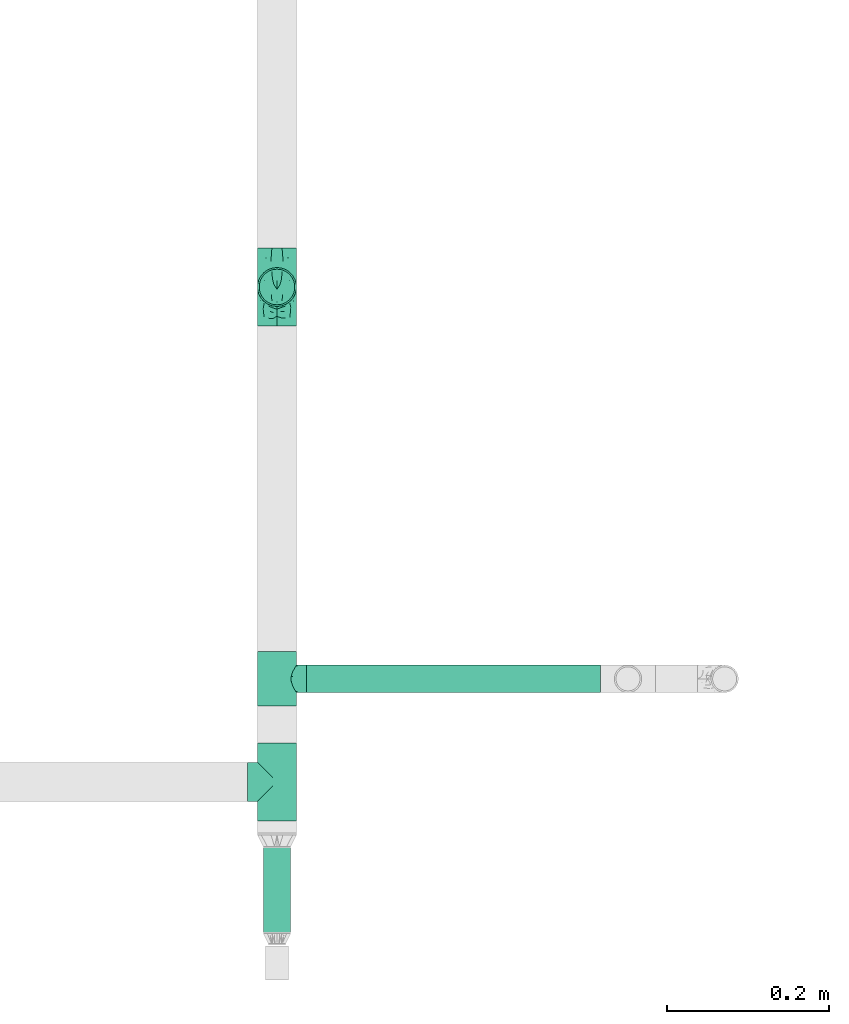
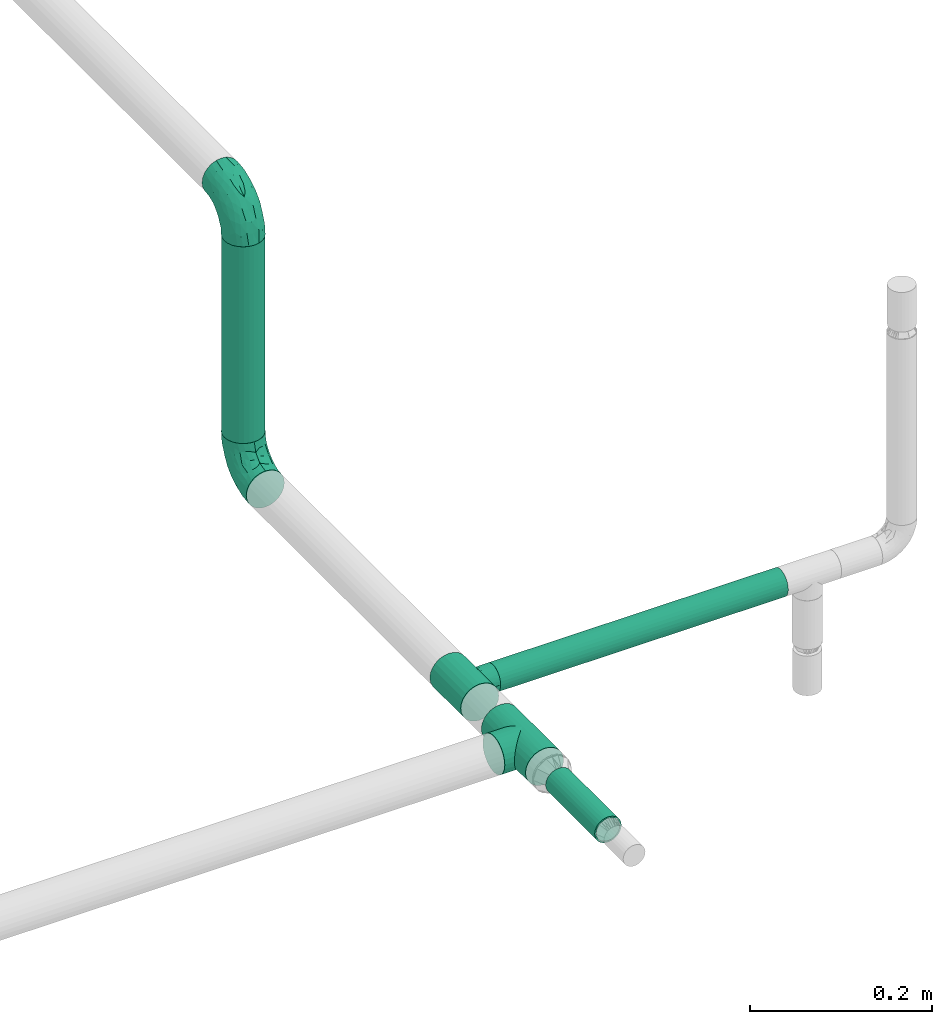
# One storey, part 10 of 51: 4 flow fittings, 3 flow segments.
"""IFC2X3 building model written with IfcOpenShell, lengths in millimetres."""

from ifc_helpers import new_model, entity, si_unit, converted_unit, derived_unit, direction, frame, origin_with_axes, origin_2d_with_axis, place, context, subcontext, project, spatial, hollow_circle, extrude, open_shell, surface_model, source, transform, mapped, type_object, element, save


model = new_model("IFC2X3")

# Units and contexts
model_context = context("Model", 3, precision=0.01, world=frame((0.0, 4.29681676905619e-09, 0.0)), true_north=direction((4.01073788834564e-13, 1.0)))
plan_context = context("Plan", 3, precision=0.01, world=frame((0.0, 4.29681676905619e-09, 0.0)), true_north=direction((4.01073788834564e-13, 1.0)))
body_context = subcontext(model_context, "Body", "Model", "MODEL_VIEW")
ifc_project = project(units=[converted_unit("PLANEANGLEUNIT", "DEGREE", entity("IfcPositiveLengthMeasure", 0.0174532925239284), si_unit("PLANEANGLEUNIT", "RADIAN"), dimensions=[0, 0, 0, 0, 0, 0, 0]), si_unit("AREAUNIT", "SQUARE_METRE"), si_unit("LENGTHUNIT", "METRE", prefix="MILLI"), si_unit("MASSUNIT", "GRAM", prefix="KILO"), si_unit("POWERUNIT", "WATT"), si_unit("PRESSUREUNIT", "PASCAL"), si_unit("FORCEUNIT", "NEWTON", prefix="KILO"), si_unit("ELECTRICVOLTAGEUNIT", "VOLT"), si_unit("ELECTRICCURRENTUNIT", "AMPERE"), si_unit("THERMODYNAMICTEMPERATUREUNIT", "DEGREE_CELSIUS"), si_unit("TIMEUNIT", "SECOND"), si_unit("VOLUMEUNIT", "CUBIC_METRE"), derived_unit("LINEARVELOCITYUNIT", [(si_unit("LENGTHUNIT", "METRE"), 1), (si_unit("TIMEUNIT", "SECOND"), -1)]), derived_unit("VOLUMETRICFLOWRATEUNIT", [(si_unit("VOLUMEUNIT", "CUBIC_METRE"), 1), (si_unit("TIMEUNIT", "SECOND"), -1)]), derived_unit("THERMALTRANSMITTANCEUNIT", [(si_unit("POWERUNIT", "WATT"), 1), (si_unit("THERMODYNAMICTEMPERATUREUNIT", "KELVIN"), -1), (si_unit("AREAUNIT", "SQUARE_METRE"), -1)]), derived_unit("SOUNDPRESSUREUNIT", [(si_unit("PRESSUREUNIT", "PASCAL"), 1)])], contexts=[model_context, plan_context])

# Site, building, storey
site_placement = place(None, frame((0.0, -4.29681676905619e-09, 0.0), z_axis=(0.0, 0.0, 1.0), x_axis=(1.0, 0.0, 0.0)))
site = spatial("IfcSite", under=ifc_project, at=site_placement, Name="ENGM", CompositionType="ELEMENT")
building_placement = place(site_placement, frame((0.0, 4.29681676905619e-09, 0.0), z_axis=(0.0, 0.0, 1.0), x_axis=(1.0, 0.0, 0.0)))
building = spatial("IfcBuilding", under=site, at=building_placement, Name="TH", CompositionType="ELEMENT")
storey_placement = place(building_placement, frame((0.0, 0.0, 210200.0), z_axis=(0.0, 0.0, 1.0), x_axis=(1.0, 0.0, 0.0)))
storey = spatial("IfcBuildingStorey", under=building, at=storey_placement, Name="Nivå F - 0,7 m", CompositionType="ELEMENT", Elevation=210200.0)

# Flow fittings
pipe_fitting_type_1 = type_object("IfcPipeFittingType", Name="magi_pipe_fe_elbow_short_001", PredefinedType="BEND")
shared_shape_1 = source(origin_with_axes(), body_context, "Body", "SurfaceModel", [
    surface_model("IfcShellBasedSurfaceModel", [(-48.4, 6.26342, -23.37541), (-48.4, 0.0, -24.2), (-48.4, 17.11198, -17.11198), (-48.4, 12.1, -20.95781), (-48.4, 23.37541, -6.26342), (-48.4, 20.95781, -12.1), (-48.4, -12.1, -20.95781), (-48.4, -17.11198, -17.11198), (-48.4, -20.95781, -12.1), (-48.4, -6.26342, -23.37541), (-48.4, -23.37541, -6.26342), (-48.4, -24.2, 0.0), (-48.4, -23.37541, 6.26342), (-48.4, 23.37541, 6.26342), (-48.4, 6.26342, 23.37541), (-48.4, 20.95781, 12.1), (-48.4, 17.11198, 17.11198), (-48.4, 12.1, 20.95781), (-48.4, -12.1, 20.95781), (-48.4, -20.95781, 12.1), (-48.4, -17.11198, 17.11198), (-48.4, -6.26342, 23.37541), (-48.4, 0.0, 24.2), (-48.4, 24.2, 0.0), (-17.11198, 48.4, -17.11198), (0.0, 48.4, -24.2), (-6.26342, 48.4, -23.37541), (-12.1, 48.4, -20.95781), (-20.95781, 48.4, -12.1), (-23.37541, 48.4, -6.26342), (12.1, 48.4, -20.95781), (20.95781, 48.4, -12.1), (17.11198, 48.4, -17.11198), (6.26342, 48.4, -23.37541), (23.37541, 48.4, -6.26342), (23.37541, 48.4, 6.26342), (24.2, 48.4, 0.0), (-23.37541, 48.4, 6.26342), (-6.26342, 48.4, 23.37541), (-17.11198, 48.4, 17.11198), (-20.95781, 48.4, 12.1), (-12.1, 48.4, 20.95781), (12.1, 48.4, 20.95781), (17.11198, 48.4, 17.11198), (20.95781, 48.4, 12.1), (0.0, 48.4, 24.2), (6.26342, 48.4, 23.37541), (-24.2, 48.4, 0.0), (-35.50368, -18.80076, 13.58523), (-31.77913, -13.9618, 18.03279), (-34.50859, -21.43683, 0.0), (-21.39243, -15.41147, 12.21413), (-32.16301, -21.12203, 7.54749), (21.12203, 32.16301, 7.54749), (17.07617, 18.95745, 6.20374), (18.67365, 20.61718, 0.0), (-23.65565, 38.62451, 10.51816), (-20.21592, 37.67665, 15.89859), (-35.56981, -9.15108, 21.77256), (-36.96985, -3.20584, 23.78612), (-33.88786, 3.70953, 24.15875), (-8.84062, -10.8048, 0.0), (-18.95745, -17.07617, 6.20374), (-20.61718, -18.67365, 0.0), (-18.69715, -5.87343, 20.10488), (-24.09336, -0.21717, 23.45593), (-2.08262, -4.09091, 10.90396), (-0.40561, 0.49936, 14.45569), (-8.22634, -5.79523, 14.90978), (-37.83027, 20.17367, 15.88169), (-8.41063, 23.79825, 24.15658), (-17.92529, 17.92529, 23.61199), (-14.40991, 10.5752, 24.07534), (-41.86919, 14.6551, 19.71874), (-9.03342, 41.7434, 22.66763), (-3.31671, 36.19978, 24.14056), (-38.63654, 23.65174, 10.51655), (-38.25939, 25.77657, 5.32075), (-30.0475, 30.0475, 9.04616), (-37.30448, 9.49113, 22.86036), (-6.31688, 16.20853, 23.76192), (-12.02449, 4.43954, 22.59792), (-2.47225, 13.07459, 22.23951), (-4.32281, 4.32281, 19.78555), (13.9618, 31.77913, 18.03279), (15.41147, 21.39243, 12.21413), (18.80076, 35.50367, 13.58523), (-25.72741, 16.42033, 22.38358), (-26.59277, 10.36599, 23.76692), (3.20584, 36.96985, 23.78612), (9.15107, 35.56981, 21.77256), (5.87343, 18.69715, 20.10488), (21.43683, 34.50859, 0.0), (-23.74657, 5.93004, 24.18967), (-22.40302, 25.55556, 19.88516), (-33.3245, 16.42738, 20.3789), (-25.47357, 39.04012, 5.19167), (-30.32947, 31.74105, 4.25904), (11.04589, 19.60124, 16.55181), (-27.44219, 36.3, 0.0), (-10.46605, 32.79159, 23.04712), (-13.80953, 25.05111, 23.26361), (-17.54489, 31.27863, 20.33941), (-19.27982, 23.42922, 22.01925), (-14.78447, 40.57947, 19.81913), (-19.60124, -11.04589, 16.55181), (-25.09785, 32.07921, 13.69695), (-25.5093, 27.02629, 17.14196), (-31.08127, 26.00324, 13.49448), (0.21717, 24.09336, 23.45593), (5.51075, 8.40547, 15.32867), (-11.48597, -10.80284, 11.35932), (1.43689, -3.14326, 6.54995), (7.34882, 4.31024, 8.4514), (7.50574, 2.51208, 3.62663), (12.46453, 10.09451, 5.71609), (12.1504, 12.55391, 10.15678), (-36.3, 27.44219, 0.0), (-6.52237, -9.62364, 7.02633), (2.93595, -2.93595, 0.0), (10.8048, 8.84062, 0.0), (-19.60124, -11.04589, -16.55181), (-31.77913, -13.9618, -18.03279), (-18.69715, -5.87343, -20.10488), (-21.39243, -15.41147, -12.21413), (-37.67665, 20.21591, -15.89859), (-40.57947, 14.78447, -19.81913), (-39.04012, 25.47357, -5.19167), (-32.16301, -21.12203, -7.54749), (-30.0475, 30.0475, -9.04616), (-38.62452, 23.65565, -10.51816), (-18.95745, -17.07617, -6.20374), (-23.42922, 19.27982, -22.01926), (-25.05111, 13.80953, -23.26361), (-31.27863, 17.54489, -20.33941), (-14.6551, 41.86919, -19.71874), (-20.17367, 37.83026, -15.88169), (9.15108, 35.56981, -21.77256), (5.87343, 18.69715, -20.10488), (0.21717, 24.09336, -23.45593), (-41.7434, 9.03342, -22.66763), (-35.50368, -18.80076, -13.58523), (-35.56981, -9.15108, -21.77256), (-16.42033, 25.72741, -22.38358), (-9.49113, 37.30447, -22.86036), (-10.36599, 26.59277, -23.76692), (-36.96985, -3.20584, -23.78612), (-23.79826, 8.41063, -24.15658), (-17.92529, 17.92529, -23.61199), (-10.5752, 14.40991, -24.07534), (-36.19978, 3.31671, -24.14056), (-25.77657, 38.25939, -5.32075), (-23.65174, 38.63654, -10.51655), (-32.79159, 10.46605, -23.04712), (-31.74105, 30.32946, -4.25904), (-5.93004, 23.74657, -24.18967), (-25.55556, 22.40302, -19.88516), (-16.42738, 33.3245, -20.3789), (3.20584, 36.96985, -23.78612), (-3.70953, 33.88785, -24.15875), (18.80076, 35.50367, -13.58523), (13.9618, 31.77913, -18.03279), (7.50574, 2.51208, -3.62663), (12.46453, 10.09451, -5.71609), (-16.20853, 6.31688, -23.76192), (-4.43954, 12.02449, -22.59792), (-13.07459, 2.47225, -22.23951), (1.43689, -3.14326, -6.54995), (-6.52237, -9.62364, -7.02632), (-2.08262, -4.09091, -10.90396), (15.41147, 21.39243, -12.21413), (21.12203, 32.16301, -7.54749), (17.07617, 18.95745, -6.20374), (-32.07921, 25.09785, -13.69695), (11.04589, 19.60124, -16.55181), (12.1504, 12.55391, -10.15678), (5.51075, 8.40547, -15.32867), (-27.02629, 25.5093, -17.14196), (-26.00324, 31.08127, -13.49448), (-24.09336, -0.21717, -23.45593), (-4.32281, 4.32281, -19.78555), (-8.22634, -5.79524, -14.90978), (-11.48597, -10.80284, -11.35931), (-0.40561, 0.49936, -14.45569), (7.34882, 4.31024, -8.4514)], [open_shell([[[0, 1, 2]], [[3, 0, 2]], [[4, 5, 2]], [[6, 2, 1]], [[4, 2, 6]], [[7, 8, 6]], [[1, 9, 6]], [[8, 10, 6]], [[6, 10, 4]], [[11, 12, 10]], [[13, 4, 10]], [[14, 13, 10]], [[15, 13, 16]], [[13, 14, 17]], [[16, 13, 17]], [[10, 18, 14]], [[19, 20, 12]], [[20, 10, 12]], [[21, 22, 18]], [[20, 18, 10]], [[18, 22, 14]], [[23, 4, 13]], [[24, 25, 26]], [[24, 26, 27]], [[24, 28, 29]], [[25, 24, 30]], [[30, 24, 29]], [[30, 31, 32]], [[30, 33, 25]], [[30, 34, 31]], [[29, 34, 30]], [[34, 35, 36]], [[34, 29, 37]], [[34, 37, 38]], [[39, 37, 40]], [[41, 38, 37]], [[41, 37, 39]], [[38, 42, 34]], [[35, 43, 44]], [[35, 34, 43]], [[42, 45, 46]], [[34, 42, 43]], [[38, 45, 42]], [[37, 29, 47]], [[20, 48, 49]], [[12, 11, 50]], [[51, 48, 52]], [[53, 54, 55]], [[48, 20, 19]], [[12, 52, 19]], [[40, 56, 57]], [[49, 18, 20]], [[49, 58, 18]], [[22, 59, 60]], [[61, 62, 63]], [[58, 64, 65]], [[66, 67, 68]], [[15, 16, 69]], [[70, 71, 72]], [[17, 73, 16]], [[21, 59, 22]], [[38, 74, 75]], [[22, 60, 14]], [[15, 69, 76]], [[16, 73, 69]], [[23, 13, 77]], [[13, 15, 76]], [[77, 76, 78]], [[14, 79, 17]], [[80, 81, 82]], [[68, 83, 64]], [[84, 43, 42]], [[85, 86, 84]], [[87, 79, 88]], [[18, 58, 21]], [[45, 89, 46]], [[53, 35, 44]], [[45, 38, 75]], [[84, 90, 91]], [[44, 86, 53]], [[92, 35, 53]], [[86, 44, 43]], [[90, 42, 46]], [[53, 55, 92]], [[88, 93, 72]], [[54, 53, 85]], [[87, 94, 95]], [[78, 96, 97]], [[98, 84, 91]], [[99, 96, 47]], [[79, 14, 60]], [[96, 78, 56]], [[62, 52, 63]], [[57, 39, 40]], [[100, 70, 75]], [[101, 102, 103]], [[12, 50, 52]], [[104, 41, 39]], [[74, 38, 41]], [[57, 102, 104]], [[105, 64, 49]], [[90, 84, 42]], [[40, 37, 56]], [[56, 106, 57]], [[102, 57, 107]], [[95, 107, 69]], [[76, 108, 78]], [[100, 101, 70]], [[89, 75, 109]], [[64, 58, 49]], [[63, 52, 50]], [[59, 58, 65]], [[105, 49, 51]], [[64, 83, 81]], [[89, 90, 46]], [[36, 35, 92]], [[109, 82, 91]], [[109, 91, 90]], [[91, 83, 110]], [[111, 68, 105]], [[66, 68, 111]], [[62, 51, 52]], [[66, 112, 113]], [[114, 115, 113]], [[98, 85, 84]], [[52, 48, 19]], [[49, 48, 51]], [[84, 86, 43]], [[53, 86, 85]], [[88, 79, 60]], [[73, 79, 95]], [[96, 56, 37]], [[78, 108, 106]], [[87, 103, 94]], [[100, 74, 104]], [[108, 69, 107]], [[78, 97, 77]], [[88, 72, 71]], [[109, 75, 70]], [[81, 72, 65]], [[70, 72, 80]], [[75, 89, 45]], [[90, 89, 109]], [[58, 59, 21]], [[60, 59, 65]], [[67, 83, 68]], [[110, 113, 116]], [[88, 60, 93]], [[87, 88, 71]], [[103, 87, 71]], [[79, 87, 95]], [[101, 103, 71]], [[94, 103, 102]], [[47, 96, 37]], [[96, 99, 97]], [[99, 117, 97]], [[97, 117, 77]], [[23, 77, 117]], [[13, 76, 77]], [[60, 65, 93]], [[65, 72, 93]], [[70, 101, 71]], [[102, 101, 100]], [[69, 108, 76]], [[106, 108, 107]], [[57, 106, 107]], [[78, 106, 56]], [[57, 104, 39]], [[100, 104, 102]], [[102, 107, 94]], [[95, 94, 107]], [[64, 81, 65]], [[82, 81, 83]], [[91, 82, 83]], [[80, 82, 109]], [[70, 80, 109]], [[81, 80, 72]], [[79, 73, 17]], [[69, 73, 95]], [[104, 74, 41]], [[75, 74, 100]], [[62, 61, 118]], [[111, 62, 118]], [[113, 115, 116]], [[119, 118, 61]], [[111, 105, 51]], [[113, 112, 114]], [[120, 55, 54]], [[68, 64, 105]], [[91, 110, 98]], [[116, 98, 110]], [[62, 111, 51]], [[66, 111, 118]], [[112, 66, 118]], [[67, 113, 110]], [[118, 119, 112]], [[114, 112, 119]], [[119, 120, 114]], [[115, 120, 54]], [[120, 115, 114]], [[116, 54, 85]], [[54, 116, 115]], [[116, 85, 98]], [[113, 67, 66]], [[83, 67, 110]], [[121, 122, 123]], [[122, 121, 124]], [[5, 125, 2]], [[2, 126, 3]], [[117, 127, 23]], [[50, 10, 128]], [[127, 129, 130]], [[128, 131, 63]], [[132, 133, 134]], [[24, 135, 136]], [[137, 138, 139]], [[3, 140, 0]], [[128, 8, 141]], [[142, 6, 9]], [[128, 63, 50]], [[5, 4, 130]], [[8, 7, 141]], [[143, 144, 145]], [[146, 9, 1]], [[147, 148, 149]], [[8, 128, 10]], [[124, 141, 122]], [[150, 1, 0]], [[151, 152, 129]], [[125, 134, 126]], [[153, 147, 150]], [[127, 154, 129]], [[145, 155, 149]], [[47, 29, 151]], [[143, 156, 157]], [[152, 29, 28]], [[25, 158, 159]], [[122, 7, 6]], [[24, 27, 135]], [[144, 27, 26]], [[32, 160, 161]], [[25, 33, 158]], [[120, 162, 163]], [[130, 125, 5]], [[24, 136, 28]], [[0, 140, 150]], [[30, 161, 137]], [[142, 122, 6]], [[25, 159, 26]], [[164, 165, 166]], [[167, 168, 169]], [[31, 160, 32]], [[161, 30, 32]], [[170, 160, 171]], [[131, 128, 124]], [[36, 92, 34]], [[34, 92, 171]], [[172, 171, 55]], [[34, 171, 31]], [[144, 26, 159]], [[130, 173, 125]], [[174, 175, 176]], [[136, 152, 28]], [[30, 137, 33]], [[122, 142, 123]], [[134, 125, 177]], [[157, 177, 136]], [[152, 178, 129]], [[153, 133, 147]], [[146, 150, 179]], [[146, 142, 9]], [[11, 10, 50]], [[179, 166, 123]], [[179, 123, 142]], [[123, 180, 181]], [[138, 137, 161]], [[55, 171, 92]], [[158, 137, 139]], [[174, 161, 170]], [[138, 180, 165]], [[180, 138, 176]], [[124, 121, 182]], [[176, 183, 180]], [[61, 131, 168]], [[169, 168, 182]], [[172, 170, 171]], [[122, 141, 7]], [[128, 141, 124]], [[171, 160, 31]], [[161, 160, 170]], [[145, 144, 159]], [[135, 144, 157]], [[127, 130, 4]], [[129, 178, 173]], [[143, 132, 156]], [[153, 140, 126]], [[178, 136, 177]], [[129, 154, 151]], [[145, 149, 148]], [[179, 150, 147]], [[165, 149, 139]], [[147, 149, 164]], [[150, 146, 1]], [[142, 146, 179]], [[137, 158, 33]], [[159, 158, 139]], [[174, 138, 161]], [[184, 169, 183]], [[145, 159, 155]], [[143, 145, 148]], [[132, 143, 148]], [[144, 143, 157]], [[133, 132, 148]], [[156, 132, 134]], [[23, 127, 4]], [[127, 117, 154]], [[117, 99, 154]], [[154, 99, 151]], [[47, 151, 99]], [[29, 152, 151]], [[159, 139, 155]], [[139, 149, 155]], [[147, 133, 148]], [[134, 133, 153]], [[136, 178, 152]], [[173, 178, 177]], [[125, 173, 177]], [[129, 173, 130]], [[125, 126, 2]], [[153, 126, 134]], [[134, 177, 156]], [[157, 156, 177]], [[138, 165, 139]], [[166, 165, 180]], [[123, 166, 180]], [[164, 166, 179]], [[147, 164, 179]], [[165, 164, 149]], [[144, 135, 27]], [[136, 135, 157]], [[126, 140, 3]], [[150, 140, 153]], [[182, 131, 124]], [[168, 119, 61]], [[119, 167, 162]], [[63, 131, 61]], [[172, 163, 175]], [[172, 55, 120]], [[123, 181, 121]], [[182, 121, 181]], [[175, 174, 170]], [[176, 138, 174]], [[169, 182, 181]], [[131, 182, 168]], [[183, 169, 181]], [[167, 169, 184]], [[162, 167, 184]], [[119, 168, 167]], [[163, 162, 184]], [[120, 119, 162]], [[175, 163, 184]], [[120, 163, 172]], [[176, 175, 184]], [[172, 175, 170]], [[180, 183, 181]], [[184, 183, 176]]])]),
])
for number, where, z_axis, x_axis, name in (
    (1, (908949.82472, 481635.36097, 3060.0), (-1.0, 0.0, 0.0), (0.0, 0.0, 1.0), "magi_pipe_fe_elbow_short_001"),
    (2, (908949.82472, 481635.36097, 2700.0), (-1.0, 0.0, 0.0), (0.0, 0.0, -1.0), "magi_pipe_fe_elbow_short_001"),
):
    element("IfcFlowFitting", number, at=place(storey_placement, frame(where, z_axis=z_axis, x_axis=x_axis)), inside=storey, type_object=pipe_fitting_type_1, Name=name, context=body_context, shape_type="MappedRepresentation", body=[
        mapped(shared_shape_1, transform((0.0, 0.0, 0.0), scale=1.0)),
    ])
pipe_fitting_type_2 = type_object("IfcPipeFittingType", Name="magi_pipe_fe_tee_centric_90_NOR", PredefinedType="JUNCTION")
shared_shape_2 = source(origin_with_axes(), body_context, "Body", "SurfaceModel", [
    surface_model("IfcShellBasedSurfaceModel", [(-33.8, 0.0, -24.2), (-33.8, -6.26342, -23.37541), (-33.8, 6.26342, -23.37541), (-33.8, 12.1, -20.95781), (-33.8, 17.11198, -17.11198), (-33.8, 20.95781, -12.1), (-33.8, -23.37541, -6.26342), (-33.8, 23.37541, -6.26342), (-33.8, -17.11198, -17.11198), (-33.8, -20.95781, -12.1), (-33.8, -12.1, -20.95781), (-33.8, -24.2, 0.0), (-33.8, -23.37541, 6.26342), (-33.8, 20.95781, 12.1), (-33.8, 23.37541, 6.26342), (-33.8, 24.2, 0.0), (-33.8, 12.1, 20.95781), (-33.8, 17.11198, 17.11198), (-33.8, -17.11198, 17.11198), (-33.8, 6.26342, 23.37541), (-33.8, -20.95781, 12.1), (-33.8, -12.1, 20.95781), (-33.8, -6.26342, 23.37541), (-33.8, 0.0, 24.2), (33.8, 6.26342, -23.37541), (33.8, -6.26342, -23.37541), (33.8, 0.0, -24.2), (33.8, 17.11198, -17.11198), (33.8, 12.1, -20.95781), (33.8, -23.37541, -6.26342), (33.8, 20.95781, -12.1), (33.8, 23.37541, -6.26342), (33.8, -17.11198, -17.11198), (33.8, -12.1, -20.95781), (33.8, -20.95781, -12.1), (33.8, -24.2, 0.0), (33.8, 24.2, 0.0), (33.8, 23.37541, 6.26342), (33.8, 20.95781, 12.1), (33.8, -23.37541, 6.26342), (33.8, -17.11198, 17.11198), (33.8, 12.1, 20.95781), (33.8, 17.11198, 17.11198), (33.8, 6.26342, 23.37541), (33.8, -20.95781, 12.1), (33.8, -12.1, 20.95781), (33.8, 0.0, 24.2), (33.8, -6.26342, 23.37541), (15.81824, -23.45734, 5.94922), (16.9, -24.2, 0.0), (12.87025, -21.57947, 10.95293), (33.8, -19.0349, 14.60599), (8.52813, -19.30697, 14.59044), (3.03527, -17.5853, 16.6252), (-3.04044, -17.58619, 16.62425), (-8.52961, -19.30762, 14.58958), (-33.8, -19.0349, 14.60599), (-16.9, -24.2, 0.0), (-15.81885, -23.45775, 5.9476), (-12.87368, -21.58151, 10.9489), (3.03527, -17.5853, -16.6252), (33.8, -19.0349, -14.60599), (8.52813, -19.30697, -14.59044), (-8.52961, -19.30762, -14.58958), (-33.8, -19.0349, -14.60599), (12.87025, -21.57947, -10.95293), (-3.04044, -17.58619, -16.62425), (15.81824, -23.45734, -5.94922), (-12.87368, -21.58151, -10.9489), (-15.81885, -23.45775, -5.9476), (4.37404, -36.3, -16.32415), (-16.9, -36.3, 0.0), (0.0, -36.3, -16.9), (14.63583, -36.3, -8.45), (8.45, -36.3, -14.63583), (16.32415, -36.3, -4.37404), (11.9501, -36.3, -11.9501), (-11.9501, -36.3, -11.9501), (-8.45, -36.3, -14.63583), (-4.37404, -36.3, -16.32415), (-14.63583, -36.3, -8.45), (-16.32415, -36.3, -4.37404), (16.9, -36.3, 0.0), (8.45, -36.3, 14.63583), (16.32415, -36.3, 4.37404), (14.63583, -36.3, 8.45), (-8.45, -36.3, 14.63583), (11.9501, -36.3, 11.9501), (4.37404, -36.3, 16.32415), (-16.32415, -36.3, 4.37404), (-11.9501, -36.3, 11.9501), (-14.63583, -36.3, 8.45), (0.0, -36.3, 16.9), (-4.37404, -36.3, 16.32415), (-16.35943, -23.82888, 2.9738), (16.35912, -23.82867, 2.97461), (-0.00259, -17.58575, 16.62472), (16.35912, -23.82867, -2.97461), (-0.00259, -17.58575, -16.62472), (-16.35943, -23.82888, -2.9738)], [open_shell([[[0, 1, 2]], [[3, 2, 4]], [[5, 2, 6]], [[4, 2, 5]], [[7, 5, 6]], [[8, 9, 10]], [[1, 10, 9]], [[1, 9, 2]], [[9, 6, 2]], [[6, 11, 7]], [[11, 12, 7]], [[13, 14, 15]], [[13, 15, 12]], [[16, 17, 18]], [[12, 17, 13]], [[19, 16, 18]], [[20, 18, 12]], [[18, 17, 12]], [[21, 22, 18]], [[23, 18, 22]], [[18, 23, 19]], [[7, 12, 15]], [[24, 25, 26]], [[27, 24, 28]], [[29, 24, 30]], [[30, 24, 27]], [[29, 30, 31]], [[25, 32, 33]], [[32, 25, 34]], [[24, 34, 25]], [[24, 29, 34]], [[31, 35, 29]], [[31, 36, 35]], [[36, 37, 38]], [[39, 36, 38]], [[40, 38, 41]], [[41, 38, 42]], [[40, 41, 43]], [[39, 40, 44]], [[39, 38, 40]], [[45, 46, 47]], [[46, 45, 40]], [[43, 46, 40]], [[36, 39, 35]], [[35, 39, 48]], [[48, 49, 35]], [[39, 50, 48]], [[51, 40, 52]], [[52, 50, 44]], [[53, 52, 40]], [[54, 53, 21]], [[44, 50, 39]], [[55, 18, 56]], [[57, 58, 11]], [[12, 11, 58]], [[58, 59, 12]], [[55, 54, 18]], [[55, 20, 59]], [[20, 55, 56]], [[59, 20, 12]], [[18, 54, 21]], [[52, 44, 51]], [[53, 40, 45]], [[23, 47, 46]], [[22, 45, 47]], [[19, 46, 43]], [[38, 37, 14]], [[17, 41, 42]], [[13, 42, 38]], [[43, 41, 16]], [[15, 37, 36]], [[21, 45, 22]], [[22, 47, 23]], [[19, 23, 46]], [[43, 16, 19]], [[16, 41, 17]], [[13, 17, 42]], [[14, 13, 38]], [[37, 15, 14]], [[45, 21, 53]], [[5, 31, 30]], [[7, 36, 31]], [[4, 30, 27]], [[26, 25, 1]], [[2, 28, 24]], [[0, 24, 26]], [[27, 28, 3]], [[10, 25, 33]], [[15, 36, 7]], [[7, 31, 5]], [[4, 5, 30]], [[27, 3, 4]], [[3, 28, 2]], [[0, 2, 24]], [[1, 0, 26]], [[25, 10, 1]], [[33, 60, 10]], [[61, 34, 62]], [[63, 9, 64]], [[62, 60, 32]], [[34, 65, 62]], [[66, 10, 60]], [[29, 35, 67]], [[67, 65, 29]], [[49, 67, 35]], [[29, 65, 34]], [[66, 63, 8]], [[62, 32, 61]], [[64, 8, 63]], [[63, 68, 9]], [[8, 10, 66]], [[68, 69, 6]], [[69, 11, 6]], [[11, 69, 57]], [[68, 6, 9]], [[60, 33, 32]], [[70, 71, 72]], [[73, 70, 74]], [[73, 75, 70]], [[73, 74, 76]], [[71, 70, 75]], [[72, 77, 78]], [[78, 79, 72]], [[80, 71, 81]], [[77, 72, 80]], [[71, 80, 72]], [[75, 82, 71]], [[83, 82, 84]], [[83, 84, 85]], [[86, 71, 83]], [[83, 85, 87]], [[86, 83, 88]], [[89, 90, 91]], [[90, 89, 86]], [[86, 92, 93]], [[89, 71, 86]], [[88, 92, 86]], [[83, 71, 82]], [[89, 94, 71]], [[59, 91, 90]], [[89, 91, 58]], [[90, 86, 55]], [[89, 58, 94]], [[94, 57, 71]], [[58, 91, 59]], [[95, 48, 84]], [[55, 93, 54]], [[55, 59, 90]], [[92, 53, 96]], [[55, 86, 93]], [[53, 92, 88]], [[83, 52, 88]], [[87, 85, 50]], [[87, 52, 83]], [[48, 85, 84]], [[87, 50, 52]], [[52, 53, 88]], [[82, 95, 84]], [[48, 50, 85]], [[95, 82, 49]], [[92, 54, 93]], [[96, 54, 92]], [[75, 97, 82]], [[65, 73, 76]], [[75, 73, 67]], [[76, 74, 62]], [[97, 49, 82]], [[67, 73, 65]], [[62, 70, 60]], [[62, 65, 76]], [[72, 66, 98]], [[62, 74, 70]], [[99, 71, 57]], [[99, 69, 81]], [[75, 67, 97]], [[79, 66, 72]], [[69, 80, 81]], [[77, 80, 68]], [[72, 60, 70]], [[79, 63, 66]], [[63, 79, 78]], [[78, 77, 63]], [[63, 77, 68]], [[68, 80, 69]], [[71, 99, 81]], [[98, 60, 72]]])]),
])
flow_fitting_1_placement = place(storey_placement, frame((908949.82472, 481150.50372, 2700.0), z_axis=(0.0, 0.0, 1.0), x_axis=(0.0, 1.0, 0.0)))
element("IfcFlowFitting", 3, at=flow_fitting_1_placement, inside=storey, type_object=pipe_fitting_type_2, Name="magi_pipe_fe_tee_centric_90_NOR", context=body_context, shape_type="MappedRepresentation", body=[
    mapped(shared_shape_2, transform((0.0, 0.0, 0.0), scale=1.0)),
])
shared_shape_3 = source(origin_with_axes(), body_context, "Body", "SurfaceModel", [
    surface_model("IfcShellBasedSurfaceModel", [(-48.4, 12.1, -20.95781), (-48.4, 6.26342, -23.37541), (-48.4, 17.11198, -17.11198), (-48.4, -20.95781, 12.1), (-48.4, -17.11198, 17.11198), (-48.4, -23.37541, 6.26342), (-48.4, 0.0, -24.2), (-48.4, -6.26342, -23.37541), (-48.4, 20.95781, -12.1), (-48.4, -23.37541, -6.26342), (-48.4, 23.37541, -6.26342), (-48.4, -12.1, -20.95781), (-48.4, -17.11198, -17.11198), (-48.4, -20.95781, -12.1), (-48.4, -24.2, 0.0), (-48.4, 20.95781, 12.1), (-48.4, 23.37541, 6.26342), (-48.4, 24.2, 0.0), (-48.4, 12.1, 20.95781), (-48.4, 17.11198, 17.11198), (-48.4, 6.26342, 23.37541), (-48.4, -12.1, 20.95781), (-48.4, -6.26342, 23.37541), (-48.4, 0.0, 24.2), (48.4, 6.26342, -23.37541), (48.4, -6.26342, -23.37541), (48.4, 0.0, -24.2), (48.4, 17.11198, -17.11198), (48.4, 12.1, -20.95781), (48.4, -23.37541, -6.26342), (48.4, 20.95781, -12.1), (48.4, 23.37541, -6.26342), (48.4, -17.11198, -17.11198), (48.4, -12.1, -20.95781), (48.4, -20.95781, -12.1), (48.4, -24.2, 0.0), (48.4, 24.2, 0.0), (48.4, 23.37541, 6.26342), (48.4, 20.95781, 12.1), (48.4, -23.37541, 6.26342), (48.4, -17.11198, 17.11198), (48.4, 12.1, 20.95781), (48.4, 17.11198, 17.11198), (48.4, 6.26342, 23.37541), (48.4, -20.95781, 12.1), (48.4, -12.1, 20.95781), (48.4, 0.0, 24.2), (48.4, -6.26342, 23.37541), (23.32218, -23.32218, 6.45878), (24.2, -24.2, 0.0), (20.94524, -20.94524, 12.12176), (13.56365, -13.56365, 20.04164), (17.56065, -17.56065, 16.65123), (-24.2, -24.2, 0.0), (-23.32218, -23.32218, 6.45878), (-20.94524, -20.94524, 12.12176), (-17.56065, -17.56065, 16.65123), (-13.56365, -13.56365, 20.04164), (-9.20594, -9.20594, 22.38059), (9.20594, -9.20594, 22.38059), (4.647, -4.647, 23.74964), (0.0, 0.0, 24.2), (-4.647, -4.647, 23.74964), (4.647, -4.647, -23.74964), (0.0, 0.0, -24.2), (-4.647, -4.647, -23.74964), (-9.20594, -9.20594, -22.38059), (9.20594, -9.20594, -22.38059), (13.56365, -13.56365, -20.04164), (17.56065, -17.56065, -16.65123), (20.94524, -20.94524, -12.12176), (23.32218, -23.32218, -6.45878), (-13.56365, -13.56365, -20.04164), (-17.56065, -17.56065, -16.65123), (-23.32218, -23.32218, -6.45878), (-20.94524, -20.94524, -12.12176), (0.0, -36.3, -24.2), (6.26342, -36.3, -23.37541), (12.1, -36.3, -20.95781), (12.1, -36.3, 20.95781), (17.11198, -36.3, -17.11198), (20.95781, -36.3, -12.1), (23.37541, -36.3, -6.26342), (-12.1, -36.3, -20.95781), (-20.95781, -36.3, -12.1), (-17.11198, -36.3, -17.11198), (-6.26342, -36.3, -23.37541), (-23.37541, -36.3, -6.26342), (-24.2, -36.3, 0.0), (24.2, -36.3, 0.0), (23.37541, -36.3, 6.26342), (20.95781, -36.3, 12.1), (-23.37541, -36.3, 6.26342), (17.11198, -36.3, 17.11198), (6.26342, -36.3, 23.37541), (-17.11198, -36.3, 17.11198), (-20.95781, -36.3, 12.1), (-12.1, -36.3, 20.95781), (0.0, -36.3, 24.2), (-6.26342, -36.3, 23.37541)], [open_shell([[[0, 1, 2]], [[3, 4, 5]], [[6, 7, 1]], [[8, 1, 9]], [[2, 1, 8]], [[10, 8, 9]], [[11, 12, 7]], [[13, 7, 12]], [[7, 13, 1]], [[13, 9, 1]], [[9, 14, 10]], [[14, 5, 10]], [[15, 16, 17]], [[15, 17, 5]], [[18, 19, 4]], [[5, 19, 15]], [[20, 18, 4]], [[4, 19, 5]], [[21, 22, 4]], [[23, 4, 22]], [[4, 23, 20]], [[10, 5, 17]], [[24, 25, 26]], [[27, 24, 28]], [[29, 24, 30]], [[30, 24, 27]], [[29, 30, 31]], [[25, 32, 33]], [[32, 25, 34]], [[24, 34, 25]], [[24, 29, 34]], [[31, 35, 29]], [[31, 36, 35]], [[36, 37, 38]], [[39, 36, 38]], [[40, 38, 41]], [[41, 38, 42]], [[40, 41, 43]], [[39, 40, 44]], [[39, 38, 40]], [[45, 46, 47]], [[46, 45, 40]], [[43, 46, 40]], [[36, 39, 35]], [[39, 44, 48]], [[35, 39, 49]], [[49, 39, 48]], [[44, 50, 48]], [[40, 45, 51]], [[50, 44, 52]], [[51, 52, 40]], [[52, 44, 40]], [[53, 54, 5]], [[53, 5, 14]], [[5, 54, 3]], [[54, 55, 3]], [[56, 57, 4]], [[4, 3, 56]], [[4, 57, 21]], [[56, 3, 55]], [[21, 57, 58]], [[51, 45, 59]], [[60, 46, 61]], [[59, 47, 60]], [[47, 59, 45]], [[60, 47, 46]], [[61, 46, 43]], [[38, 37, 16]], [[19, 41, 42]], [[15, 42, 38]], [[43, 41, 18]], [[17, 37, 36]], [[62, 61, 23]], [[62, 22, 58]], [[22, 62, 23]], [[58, 22, 21]], [[61, 20, 23]], [[43, 20, 61]], [[18, 20, 43]], [[18, 41, 19]], [[15, 19, 42]], [[16, 15, 38]], [[37, 17, 16]], [[27, 2, 30]], [[31, 10, 36]], [[31, 30, 8]], [[0, 27, 28]], [[26, 25, 63]], [[26, 64, 24]], [[64, 26, 63]], [[28, 24, 1]], [[64, 1, 24]], [[10, 31, 8]], [[30, 2, 8]], [[2, 27, 0]], [[36, 10, 17]], [[65, 66, 7]], [[6, 1, 64]], [[6, 65, 7]], [[66, 11, 7]], [[1, 0, 28]], [[6, 64, 65]], [[63, 25, 67]], [[33, 32, 68]], [[69, 68, 32]], [[34, 70, 69]], [[69, 32, 34]], [[33, 68, 67]], [[29, 35, 49]], [[29, 71, 34]], [[71, 29, 49]], [[34, 71, 70]], [[72, 11, 66]], [[72, 12, 11]], [[12, 72, 73]], [[12, 73, 13]], [[74, 53, 9]], [[75, 74, 13]], [[74, 9, 13]], [[9, 53, 14]], [[75, 13, 73]], [[33, 67, 25]], [[76, 77, 78]], [[79, 76, 78]], [[80, 81, 82]], [[80, 82, 78]], [[79, 83, 76]], [[83, 84, 85]], [[83, 86, 76]], [[83, 87, 84]], [[87, 83, 88]], [[83, 79, 88]], [[89, 78, 82]], [[89, 90, 91]], [[89, 91, 79]], [[79, 92, 88]], [[79, 91, 93]], [[92, 79, 94]], [[92, 95, 96]], [[92, 94, 95]], [[97, 98, 99]], [[98, 97, 95]], [[94, 98, 95]], [[79, 78, 89]], [[88, 92, 53]], [[54, 53, 92]], [[95, 97, 57]], [[54, 92, 96]], [[95, 56, 96]], [[58, 97, 99]], [[55, 54, 96]], [[56, 55, 96]], [[58, 57, 97]], [[98, 61, 62]], [[58, 99, 62]], [[56, 95, 57]], [[62, 99, 98]], [[60, 98, 94]], [[79, 59, 94]], [[91, 90, 48]], [[52, 93, 91]], [[51, 79, 93]], [[49, 90, 89]], [[59, 60, 94]], [[51, 59, 79]], [[49, 48, 90]], [[50, 52, 91]], [[48, 50, 91]], [[51, 93, 52]], [[98, 60, 61]], [[89, 82, 49]], [[71, 49, 82]], [[69, 81, 80]], [[80, 78, 68]], [[81, 71, 82]], [[67, 78, 77]], [[70, 71, 81]], [[69, 70, 81]], [[67, 68, 78]], [[76, 64, 63]], [[67, 77, 63]], [[69, 80, 68]], [[63, 77, 76]], [[65, 76, 86]], [[83, 66, 86]], [[84, 87, 74]], [[73, 85, 84]], [[72, 83, 85]], [[53, 87, 88]], [[66, 65, 86]], [[72, 66, 83]], [[53, 74, 87]], [[75, 73, 84]], [[74, 75, 84]], [[72, 85, 73]], [[76, 65, 64]]])]),
])
flow_fitting_2_placement = place(storey_placement, frame((908949.82472, 481023.05237, 2700.0), z_axis=(0.0, 0.0, 1.0), x_axis=(0.0, -1.0, 0.0)))
element("IfcFlowFitting", 4, at=flow_fitting_2_placement, inside=storey, type_object=pipe_fitting_type_2, Name="magi_pipe_fe_tee_centric_90_NOR", context=body_context, shape_type="MappedRepresentation", body=[
    mapped(shared_shape_3, transform((0.0, 0.0, 0.0), scale=1.0)),
])

# Flow segments
pipe_segment_type = type_object("IfcPipeSegmentType", Name="Stålrør normaltykke", PredefinedType="RIGIDSEGMENT")
shared_shape_4 = source(origin_with_axes(), body_context, "Body", "SweptSolid", [
    extrude(hollow_circle(Radius=16.9, WallThickness=2.0, at=origin_2d_with_axis()), frame((0.0, 0.0, 0.0), z_axis=(1.0, 0.0, 0.0), x_axis=(0.0, 1.0, 0.0)), (0.0, 0.0, 1.0), 107.6),
])
flow_segment_1_placement = place(storey_placement, frame((908949.82472, 480835.45237, 2700.0), z_axis=(0.0, 0.0, 1.0), x_axis=(0.0, 1.0, 0.0)))
element("IfcFlowSegment", 5, at=flow_segment_1_placement, inside=storey, type_object=pipe_segment_type, Name="Stålrør normaltykke", context=body_context, shape_type="MappedRepresentation", body=[
    mapped(shared_shape_4, transform((0.0, 0.0, 0.0), scale=1.0)),
])
shared_shape_5 = source(origin_with_axes(), body_context, "Body", "SweptSolid", [
    extrude(hollow_circle(Radius=24.1, WallThickness=2.0, at=origin_2d_with_axis()), frame((0.0, 0.0, 0.0), z_axis=(1.0, 0.0, 0.0), x_axis=(0.0, 1.0, 0.0)), (0.0, 0.0, 1.0), 263.2),
])
flow_segment_2_placement = place(storey_placement, frame((908949.82472, 481635.36097, 2748.39999999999), z_axis=(1.0, 0.0, 0.0), x_axis=(0.0, 0.0, 1.0)))
element("IfcFlowSegment", 6, at=flow_segment_2_placement, inside=storey, type_object=pipe_segment_type, Name="Stålrør normaltykke", context=body_context, shape_type="MappedRepresentation", body=[
    mapped(shared_shape_5, transform((0.0, 0.0, 0.0), scale=1.0)),
])
shared_shape_6 = source(origin_with_axes(), body_context, "Body", "SweptSolid", [
    extrude(hollow_circle(Radius=16.9, WallThickness=2.0, at=origin_2d_with_axis()), frame((0.0, 0.0, 0.0), z_axis=(1.0, 0.0, 0.0), x_axis=(0.0, 1.0, 0.0)), (0.0, 0.0, 1.0), 364.2),
])
flow_segment_3_placement = place(storey_placement, frame((909350.28153, 481150.50372, 2700.0), z_axis=(0.0, 0.0, 1.0), x_axis=(-1.0, 0.0, 0.0)))
element("IfcFlowSegment", 7, at=flow_segment_3_placement, inside=storey, type_object=pipe_segment_type, Name="Stålrør normaltykke", context=body_context, shape_type="MappedRepresentation", body=[
    mapped(shared_shape_6, transform((0.0, 0.0, 0.0), scale=1.0)),
])

save(model, "model.ifc")
